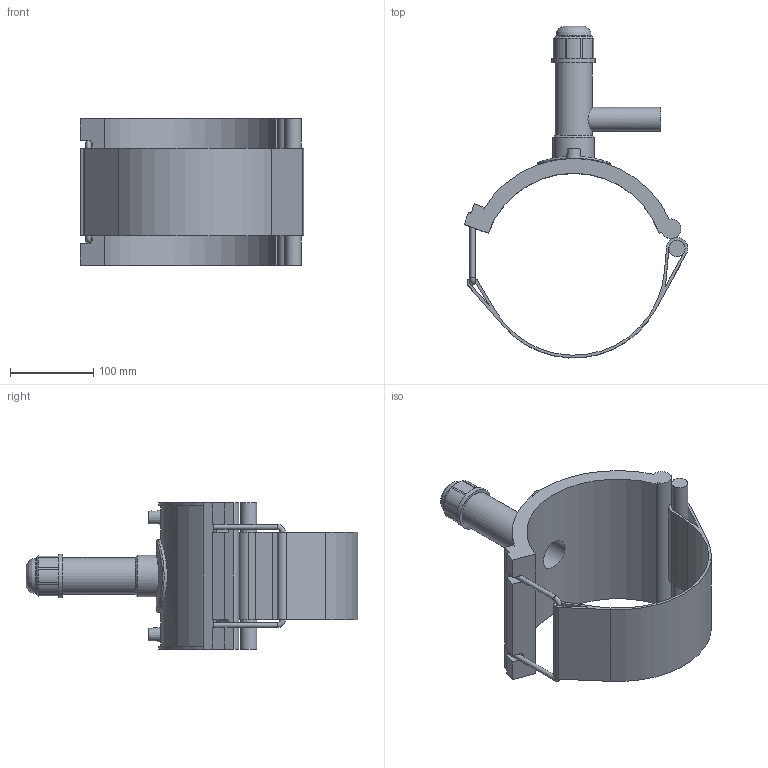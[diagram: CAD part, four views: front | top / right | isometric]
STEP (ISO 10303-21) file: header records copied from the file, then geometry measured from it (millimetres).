
FILE_DESCRIPTION(/* description */ ('PLASSON TAPPING SADDLE 8''''IPS x 1''''CTS'),/* implementation_level */ '2;1');
FILE_NAME(/* name */ 'C:\Dropbox\KIMPROJECTS-Inventor 2019\99-16-3568-Processing Inch\ASTM ElectroFusion 2021\5963B\5963BU03080010.ipt.stp',/* time_stamp */ '2021-08-30T09:56:45+03:00',/* author */ ('KIM'),/* organization */ (''),/* preprocessor_version */ 'ST-DEVELOPER v17.2',/* originating_system */ 'Autodesk Inventor 2019',/* authorisation */ '');
FILE_SCHEMA (('AUTOMOTIVE_DESIGN { 1 0 10303 214 3 1 1 }'));
Length unit declared in the file: millimetre
Products named in the file (1): 5963BU03080010
Bounding box: 268.63 x 398.85 x 176.02 mm (x, y, z)
Volume: 1306216 mm3; surface area: 304128.3 mm2
Topology: 1 solids, 1 shells, 122 faces, 315 edges, 206 vertices
Faces by surface type: plane 69, cylinder 38, cone 11, bspline 2, torus 2
Full cylindrical faces by diameter (mm): 4 x2, 6.124 x2, 10 x2, 19.347 x1, 22.76 x1, 28.45 x1, 36.742 x1, 41.99 x1, 44.615 x1, 49.864 x1, 52.488 x1, 87.48 x1
Entity records: 4332 total; most frequent: CARTESIAN_POINT 1212, DIRECTION 656, ORIENTED_EDGE 632, EDGE_CURVE 316, AXIS2_PLACEMENT_3D 238, VERTEX_POINT 206, LINE 180, VECTOR 180
